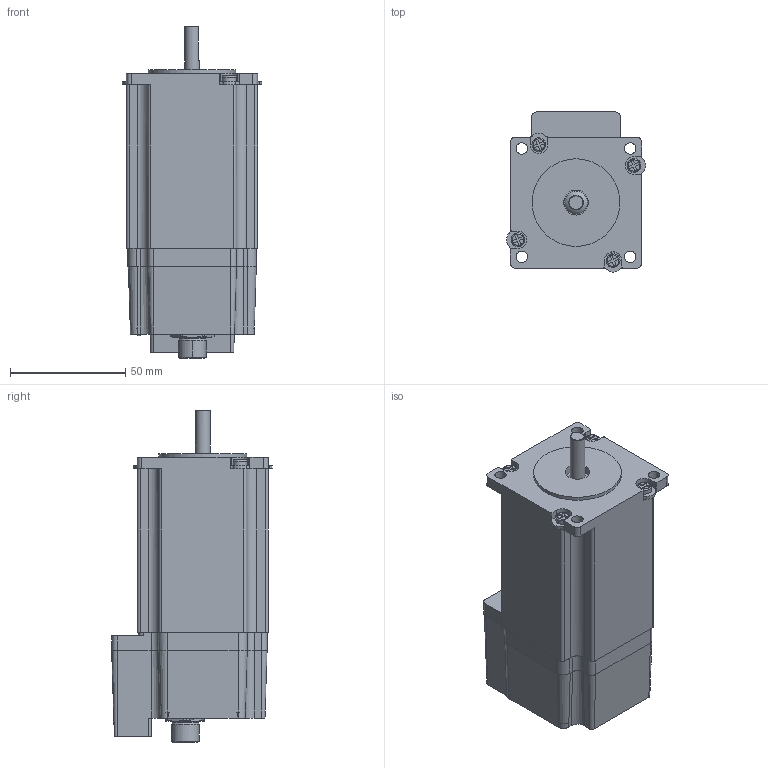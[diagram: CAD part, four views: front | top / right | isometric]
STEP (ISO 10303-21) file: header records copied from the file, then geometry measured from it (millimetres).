
FILE_DESCRIPTION(/* description */ ('Alibre Inc.'),/* implementation_level */ '2;1');
FILE_NAME(/* name */ 'export-EE4BA59A-BB6A-46E9-AA2E-8D0484E32D9A',/* time_stamp */ '2025-12-10T13:54:11-05:00',/* author */ (''),/* organization */ (''),/* preprocessor_version */ 'ST-DEVELOPER v17',/* originating_system */ 'Alibre',/* authorisation */ '');
FILE_SCHEMA (('CONFIG_CONTROL_DESIGN'));
Length unit declared in the file: millimetre
Bounding box: 60.48 x 69.86 x 144.32 mm (x, y, z)
Volume: 339462.7 mm3; surface area: 42518.2 mm2
Topology: 1 solids, 23 shells, 675 faces, 1598 edges, 1038 vertices
Faces by surface type: plane 282, cylinder 247, bspline 64, cone 45, torus 32, sphere 5
Full cylindrical faces by diameter (mm): 1.1 x8, 2 x4, 2.156 x4, 2.87 x4, 2.92 x2, 3 x5, 3.556 x4, 5 x4, 5.44 x4, 6 x4, 6.35 x1, 7.938 x1, 8 x2, 10 x1, 10.795 x2, 12.7 x2, 23.495 x1, 26 x1, 38.1 x1
Entity records: 19656 total; most frequent: CARTESIAN_POINT 4883, ORIENTED_EDGE 2992, DIRECTION 2791, EDGE_CURVE 1496, AXIS2_PLACEMENT_3D 1174, VERTEX_POINT 1010, EDGE_LOOP 842, FACE_BOUND 842
